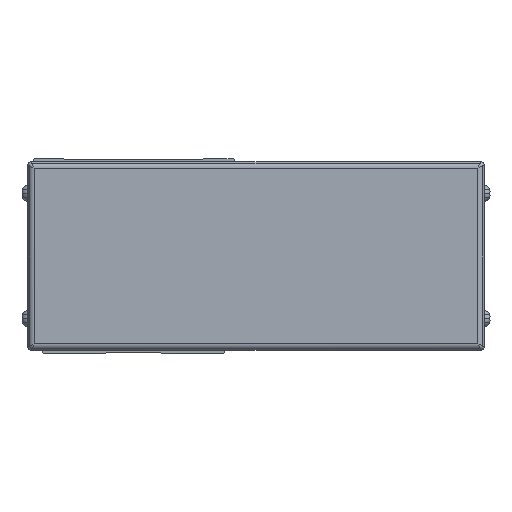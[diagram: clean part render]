
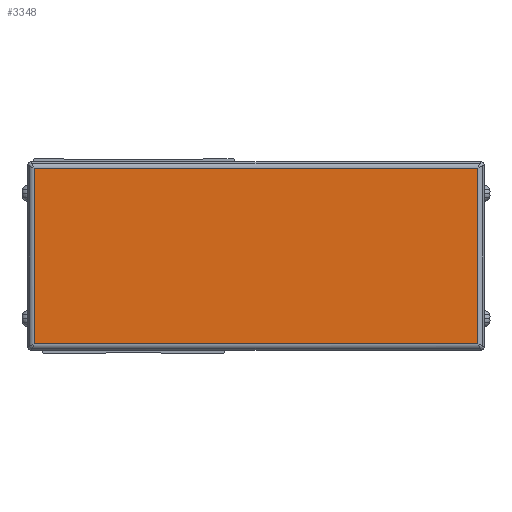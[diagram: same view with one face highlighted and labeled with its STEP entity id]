
A CAD part, front view. The second image highlights one B-rep face of the part: STEP entity #3348.
In plain terms, the highlighted planar face has unit normal (0, -1, 0).
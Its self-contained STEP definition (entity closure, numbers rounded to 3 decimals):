
#3348=ADVANCED_FACE('',(#8409),#8410,.T.);
#8409=FACE_OUTER_BOUND('',#16053,.T.);
#8410=PLANE('',#16054);
#16053=EDGE_LOOP('',(#25277,#25278,#25279,#25280));
#16054=AXIS2_PLACEMENT_3D('',#25281,#25282,#25283);
#25277=ORIENTED_EDGE('',*,*,#45202,.F.);
#25278=ORIENTED_EDGE('',*,*,#45203,.F.);
#25279=ORIENTED_EDGE('',*,*,#45204,.F.);
#25280=ORIENTED_EDGE('',*,*,#45205,.F.);
#25281=CARTESIAN_POINT('',(339.,6.,-4.));
#25282=DIRECTION('',(0.,-1.0,0.));
#25283=DIRECTION('',(0.,0.,1.0));
#45202=EDGE_CURVE('',#51983,#52899,#54442,.T.);
#45203=EDGE_CURVE('',#53298,#51983,#54443,.T.);
#45204=EDGE_CURVE('',#54444,#53298,#54445,.T.);
#45205=EDGE_CURVE('',#52899,#54444,#54446,.T.);
#51983=VERTEX_POINT('',#63948);
#52899=VERTEX_POINT('',#65197);
#53298=VERTEX_POINT('',#65802);
#54442=LINE('',#67484,#67485);
#54443=LINE('',#67486,#67487);
#54444=VERTEX_POINT('',#67488);
#54445=LINE('',#67489,#67490);
#54446=LINE('',#67491,#67492);
#63948=CARTESIAN_POINT('',(268.3,6.,24.));
#65197=CARTESIAN_POINT('',(409.7,6.,24.));
#65802=CARTESIAN_POINT('',(268.3,6.,-32.));
#67484=CARTESIAN_POINT('',(339.,6.,24.));
#67485=VECTOR('',#82473,10.0);
#67486=CARTESIAN_POINT('',(268.3,6.,-4.));
#67487=VECTOR('',#82474,10.0);
#67488=CARTESIAN_POINT('',(409.7,6.,-32.));
#67489=CARTESIAN_POINT('',(339.,6.,-32.));
#67490=VECTOR('',#82475,10.0);
#67491=CARTESIAN_POINT('',(409.7,6.,-4.));
#67492=VECTOR('',#82476,10.0);
#82473=DIRECTION('',(1.0,0.,0.));
#82474=DIRECTION('',(0.,0.,1.0));
#82475=DIRECTION('',(-1.0,0.,0.));
#82476=DIRECTION('',(0.,0.,-1.0));
